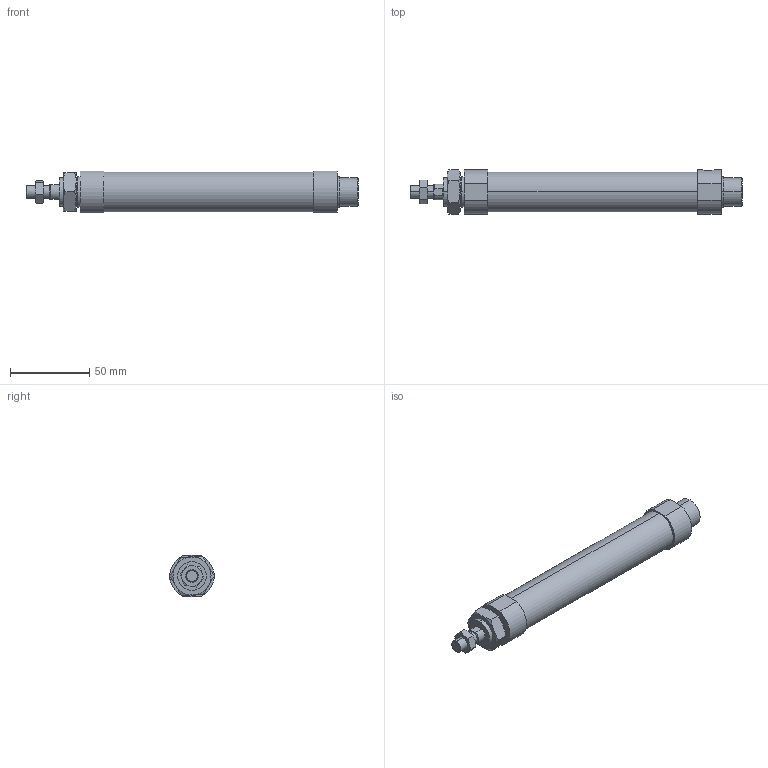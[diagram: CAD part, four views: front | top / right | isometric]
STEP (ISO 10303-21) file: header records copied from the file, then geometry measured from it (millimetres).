
FILE_DESCRIPTION (( 'STEP AP203' ), '1' );
FILE_NAME ('J#1-20-50-N.STEP', '2016-03-08T06:44:48', ( '' ), ( '' ), 'SwSTEP 2.0', 'SolidWorks 2014', '' );
FILE_SCHEMA (( 'CONFIG_CONTROL_DESIGN' ));
Length unit declared in the file: millimetre
Products named in the file (4): J#1-20-50; J#1-20-50-N
Assembly tree (3 placements, depth 2):
  J#1-20-50-N
    J#1-20-50
    (unnamed)
    (unnamed)
Bounding box: 209 x 28 x 26 mm (x, y, z)
Volume: 92787.5 mm3; surface area: 18936.3 mm2
Topology: 3 solids, 3 shells, 89 faces, 192 edges, 118 vertices
Faces by surface type: plane 35, cylinder 24, torus 24, cone 6
Entity records: 3110 total; most frequent: CARTESIAN_POINT 795, DIRECTION 408, ORIENTED_EDGE 384, EDGE_CURVE 192, AXIS2_PLACEMENT_3D 175, VERTEX_POINT 118, EDGE_LOOP 102, ADVANCED_FACE 89
